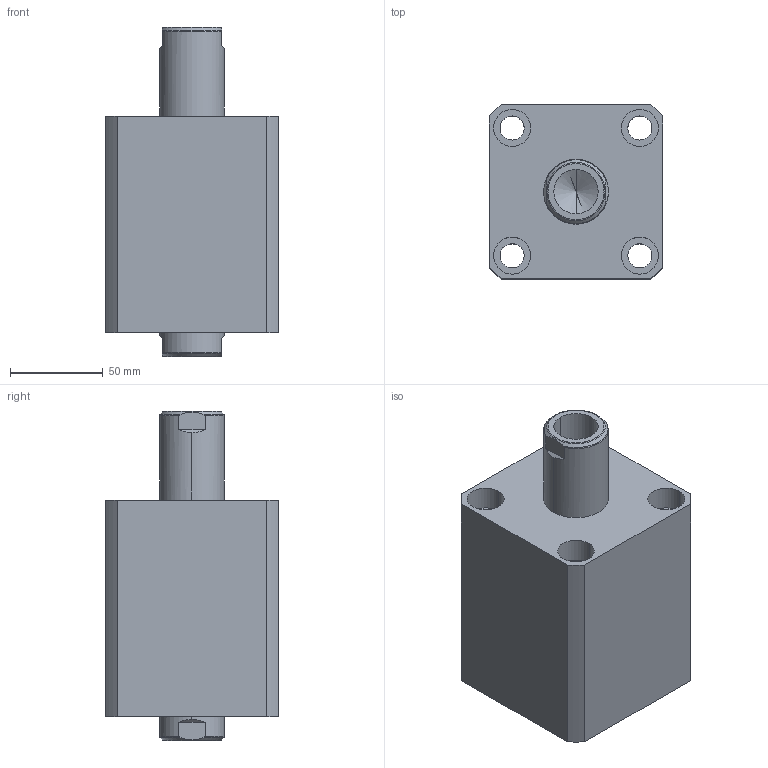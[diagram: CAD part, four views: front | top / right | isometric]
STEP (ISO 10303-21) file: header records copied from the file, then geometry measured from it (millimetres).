
FILE_DESCRIPTION (( 'STEP AP214' ), '1' );
FILE_NAME ('chtb-sw63x35n_asm.STEP', '2018-05-12T02:02:36', ( 'Windows' ), ( 'Microsoft' ), 'SwSTEP 2.0', 'SolidWorks 2015', '' );
FILE_SCHEMA (( 'AUTOMOTIVE_DESIGN' ));
Length unit declared in the file: millimetre
Products named in the file (4): CHTB-SW63X35NHSG; CHTB-SW63X35NBT; CHTB-63QG; chtb-sw63x35n_asm
Assembly tree (3 placements, depth 2):
  chtb-sw63x35n_asm
    CHTB-63QG
    CHTB-SW63X35NBT
    CHTB-SW63X35NHSG
Bounding box: 94 x 94 x 178 mm (x, y, z)
Volume: 900497.7 mm3; surface area: 152029.9 mm2
Topology: 3 solids, 3 shells, 184 faces, 515 edges, 349 vertices
Faces by surface type: cylinder 106, plane 38, cone 16, bspline 12, torus 12
Entity records: 18385 total; most frequent: CARTESIAN_POINT 13775, ORIENTED_EDGE 1014, DIRECTION 814, EDGE_CURVE 507, VERTEX_POINT 349, AXIS2_PLACEMENT_3D 331, EDGE_LOOP 220, FACE_OUTER_BOUND 184
